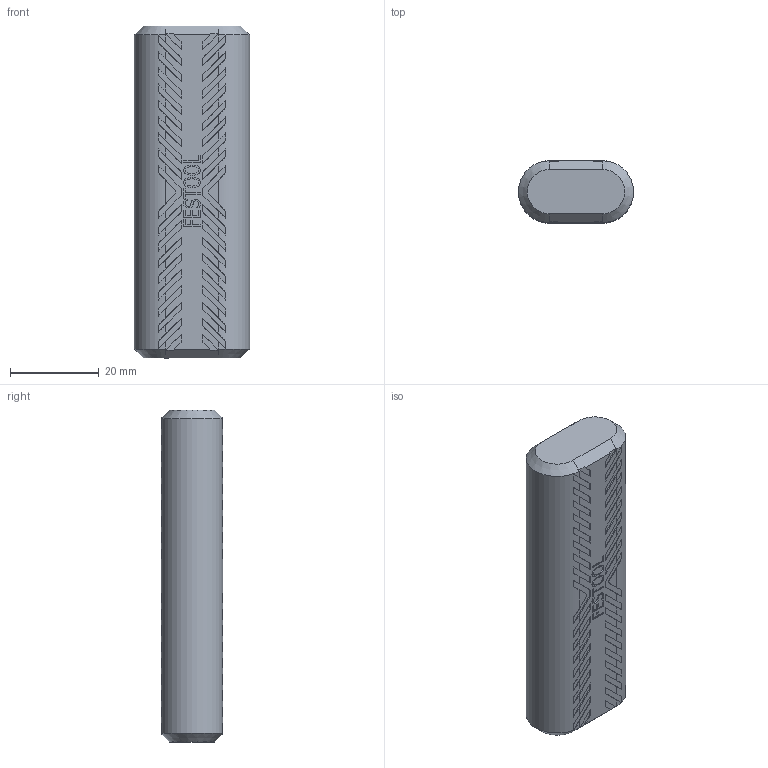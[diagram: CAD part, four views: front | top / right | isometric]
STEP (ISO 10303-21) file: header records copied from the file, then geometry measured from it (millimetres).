
FILE_DESCRIPTION(('Creo Elements/Direct Modeling STEP Export'),'2;1');
FILE_NAME('Domino_14x75.stp','2024-01-19T 8:04:34',(''),(''),'Creo Elements/Direct Modeling STEP processor for AP214 (Solid Model)','Creo Elements/Direct Modeling 20.5A 14-Oct-2022 (C) Parametric Technology GmbH','');
FILE_SCHEMA(('AUTOMOTIVE_DESIGN { 1 0 10303 214 1 1 1 1 }'));
Length unit declared in the file: millimetre
Products named in the file (1): 14x75_10021602
Bounding box: 26 x 14 x 75 mm (x, y, z)
Volume: 23760.6 mm3; surface area: 5849 mm2
Topology: 1 solids, 1 shells, 814 faces, 2356 edges, 1568 vertices
Faces by surface type: plane 808, cone 4, cylinder 2
Entity records: 25364 total; most frequent: ORIENTED_EDGE 4712, CARTESIAN_POINT 4508, DIRECTION 3825, EDGE_CURVE 2356, VECTOR 2055, LINE 2055, VERTEX_POINT 1568, AXIS2_PLACEMENT_3D 885
